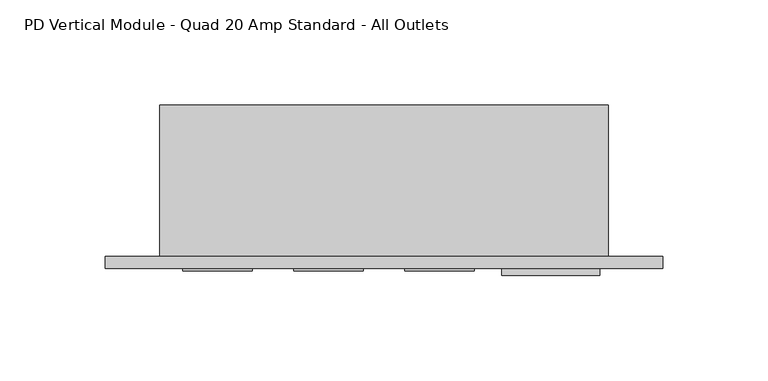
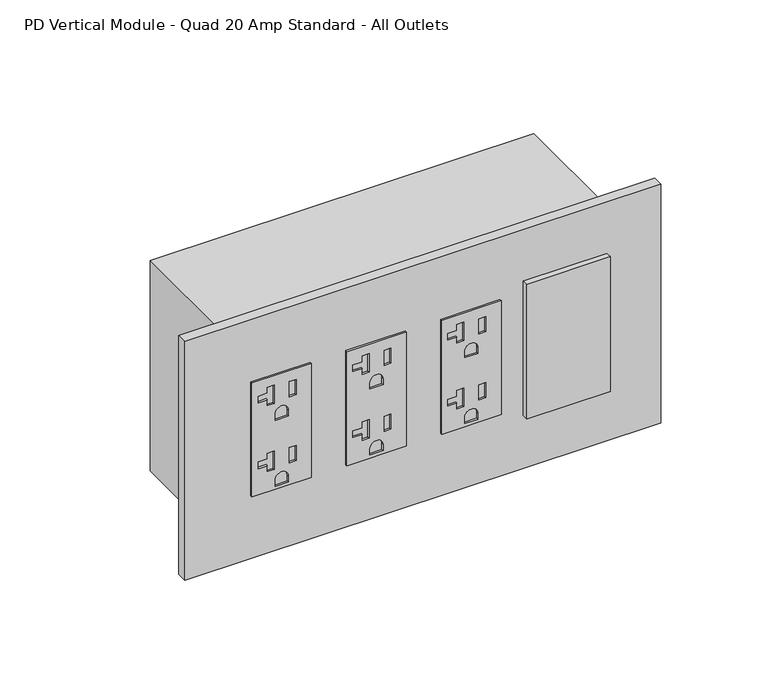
"""IFC4 building model written with IfcOpenShell, lengths in millimetres: proxy geometry, Electrical-Teknion-EPDMQ_Vertical_Power_Data_Quad-R2019 : PD Vertical Module - Quad 20 Amp Standard - All Outlets."""

import ifcopenshell
import ifcopenshell.guid

model = None  # the IFC model being written
_history = None  # IfcOwnerHistory: only IFC2X3 demands one
_inside = {}  # id of a spatial element -> (the spatial element, [elements in it])
_under = {}  # id of a project, library or spatial element -> (it, [spatial elements below it])
_declared = {}  # id of a project -> (the project, [libraries it declares])
_typed = {}  # id of a type object -> (the type object, [elements of that type])
_made_of = {}  # id of a material, layer set ... -> (it, [elements and type objects made of it])


def new_model(schema):
    """Start an empty IFC model of exactly this schema.

    Asked for "IFC4X3", IfcOpenShell would pick the latest addendum, in which some entities
    have other attributes; the version numbers below select the first issue.
    IFC2X3 requires an IfcOwnerHistory on every rooted entity: one is made here for all.
    """
    global model, _history
    if schema == "IFC4X3":
        model = ifcopenshell.file(schema_version=(4, 3, 0, 0))
    else:
        model = ifcopenshell.file(schema=schema)
    _inside.clear()
    _under.clear()
    _declared.clear()
    _typed.clear()
    _made_of.clear()
    _history = None
    if model.schema == "IFC2X3":
        org = make("IfcOrganization", Name="unknown")
        user = make(
            "IfcPersonAndOrganization",
            ThePerson=make("IfcPerson", FamilyName="unknown"),
            TheOrganization=org,
        )
        app = make(
            "IfcApplication",
            ApplicationDeveloper=org,
            Version="unknown",
            ApplicationFullName="unknown",
            ApplicationIdentifier="unknown",
        )
        _history = make(
            "IfcOwnerHistory",
            OwningUser=user,
            OwningApplication=app,
            ChangeAction="ADDED",
            CreationDate=0,
        )
    return model


def make(cls, **values):
    """One entity of the class cls with the attributes given. An attribute that is None is left unset."""
    return model.create_entity(
        cls, **{name: value for name, value in values.items() if value is not None}
    )


def rooted(cls, **values):
    """An entity with a GlobalId (a new one), such as an element, a storey or a relation."""
    return make(cls, GlobalId=ifcopenshell.guid.new(), OwnerHistory=_history, **values)


def si_unit(unit_type, name, prefix=None):
    """IfcSIUnit, for example si_unit("LENGTHUNIT", "METRE", prefix="MILLI")."""
    return make("IfcSIUnit", UnitType=unit_type, Prefix=prefix, Name=name)


def assignment(units):
    """IfcUnitAssignment: the units of a project."""
    return None if units is None else make("IfcUnitAssignment", Units=units)


def point(xyz):
    """IfcCartesianPoint."""
    return None if xyz is None else make("IfcCartesianPoint", Coordinates=xyz)


def direction(xyz):
    """IfcDirection."""
    return None if xyz is None else make("IfcDirection", DirectionRatios=xyz)


def frame(location, z_axis=None, x_axis=None):
    """IfcAxis2Placement3D, a coordinate frame: its origin and axes. An axis left out is left unset."""
    return make(
        "IfcAxis2Placement3D",
        Location=point(location),
        Axis=direction(z_axis),
        RefDirection=direction(x_axis),
    )


def frame_2d(location, x_axis=None):
    """IfcAxis2Placement2D, a coordinate frame in the plane: its origin and x axis."""
    return make(
        "IfcAxis2Placement2D", Location=point(location), RefDirection=direction(x_axis)
    )


def origin():
    """The frame at (0, 0, 0) with its axes left unset."""
    return frame((0.0, 0.0, 0.0))


def place(relative_to, where):
    """IfcLocalPlacement: puts the frame where relative to a parent placement (None: the world)."""
    return make(
        "IfcLocalPlacement", PlacementRelTo=relative_to, RelativePlacement=where
    )


def context(
    kind, dimensions, precision=None, world=None, true_north=None, identifier=None
):
    """IfcGeometricRepresentationContext, for example the 3D "Model" context."""
    return make(
        "IfcGeometricRepresentationContext",
        ContextIdentifier=identifier,
        ContextType=kind,
        CoordinateSpaceDimension=dimensions,
        Precision=precision,
        WorldCoordinateSystem=world,
        TrueNorth=true_north,
    )


def project(units=None, contexts=None):
    """IfcProject with its units and contexts."""
    return rooted(
        "IfcProject",
        Name="project",
        RepresentationContexts=contexts,
        UnitsInContext=assignment(units),
    )


def spatial(cls, under=None, at=None, **own):
    """A site, building, storey or space (cls), placed at a placement, below another one or the project."""
    s = rooted(cls, ObjectPlacement=at, **own)
    if under is not None:
        _under.setdefault(under.id(), (under, []))[1].append(s)
    return s


def polyline(points):
    """IfcPolyline through the points."""
    return make("IfcPolyline", Points=[point(p) for p in points])


def circle_curve(where, radius):
    """IfcCircle in the frame where."""
    return make("IfcCircle", Position=where, Radius=radius)


def trimmed(basis, trim1, trim2, sense, master):
    """IfcTrimmedCurve: the piece of a basis curve between two trims."""
    return make(
        "IfcTrimmedCurve",
        BasisCurve=basis,
        Trim1=trim1,
        Trim2=trim2,
        SenseAgreement=sense,
        MasterRepresentation=master,
    )


def segment(curve, same_sense, transition):
    """IfcCompositeCurveSegment."""
    return make(
        "IfcCompositeCurveSegment",
        Transition=transition,
        SameSense=same_sense,
        ParentCurve=curve,
    )


def composite_curve(segments, self_intersect=None):
    """IfcCompositeCurve: segments joined end to end."""
    return make("IfcCompositeCurve", Segments=segments, SelfIntersect=self_intersect)


def outline(outer, holes=None, kind="AREA"):
    """IfcArbitraryClosedProfileDef: a profile drawn as a closed curve; with holes, ...WithVoids."""
    if holes is None:
        return make("IfcArbitraryClosedProfileDef", ProfileType=kind, OuterCurve=outer)
    return make(
        "IfcArbitraryProfileDefWithVoids",
        ProfileType=kind,
        OuterCurve=outer,
        InnerCurves=holes,
    )


def extrude(swept, where, along, depth):
    """IfcExtrudedAreaSolid: the profile swept, set in the frame where, extruded along a direction by depth."""
    return make(
        "IfcExtrudedAreaSolid",
        SweptArea=swept,
        Position=where,
        ExtrudedDirection=direction(along),
        Depth=depth,
    )


def shape(context_of_items, identifier, shape_type, items):
    """IfcShapeRepresentation: the items that make up one representation, for example the "Body"."""
    return make(
        "IfcShapeRepresentation",
        ContextOfItems=context_of_items,
        RepresentationIdentifier=identifier,
        RepresentationType=shape_type,
        Items=items,
    )


def source(mapping_origin, context_of_items, identifier, shape_type, items):
    """IfcRepresentationMap: a shape defined once, which mapped items show again and again."""
    return make(
        "IfcRepresentationMap",
        MappingOrigin=mapping_origin,
        MappedRepresentation=shape(context_of_items, identifier, shape_type, items),
    )


def transform(
    local_origin,
    x_axis=None,
    y_axis=None,
    z_axis=None,
    scale=None,
    scale2=None,
    scale3=None,
    uniform=True,
):
    """IfcCartesianTransformationOperator3D, or its non-uniform kind. x_axis, y_axis, z_axis: its Axis1, 2, 3."""
    if uniform:
        return make(
            "IfcCartesianTransformationOperator3D",
            Axis1=direction(x_axis),
            Axis2=direction(y_axis),
            LocalOrigin=point(local_origin),
            Scale=scale,
            Axis3=direction(z_axis),
        )
    return make(
        "IfcCartesianTransformationOperator3DnonUniform",
        Axis1=direction(x_axis),
        Axis2=direction(y_axis),
        LocalOrigin=point(local_origin),
        Scale=scale,
        Axis3=direction(z_axis),
        Scale2=scale2,
        Scale3=scale3,
    )


def mapped(mapping_source, mapping_target):
    """IfcMappedItem: shows the shape of a source again, moved by a transform."""
    return make(
        "IfcMappedItem", MappingSource=mapping_source, MappingTarget=mapping_target
    )


def made_of(thing, what):
    """Note that an element or type object is made of a material, layer set ...; save() writes the relation."""
    if what is not None:
        _made_of.setdefault(what.id(), (what, []))[1].append(thing)
    return thing


def element(
    cls,
    number,
    at=None,
    inside=None,
    cuts=None,
    type_object=None,
    material=None,
    context=None,
    identifier="Body",
    shape_type=None,
    held_by="IfcProductDefinitionShape",
    body=None,
    shapes=None,
    **own,
):
    """One element of the class cls, such as IfcWall. Its Tag is "e" and its number.

    at: its placement. inside: the storey or other place that contains it. cuts: it is an
    opening in that element (IfcRelVoidsElement). A single representation is given by context,
    identifier, shape_type and body (its items); several are given by shapes. held_by: the class
    of the entity that holds the representations. save() writes the other relations.
    """
    e = rooted(cls, Tag="e%d" % number, ObjectPlacement=at, **own)
    if body is not None:
        shapes = [shape(context, identifier, shape_type, body)]
    if shapes is not None:
        e.Representation = make(held_by, Representations=shapes)
    if inside is not None:
        _inside.setdefault(inside.id(), (inside, []))[1].append(e)
    if cuts is not None:
        rooted(
            "IfcRelVoidsElement", RelatingBuildingElement=cuts, RelatedOpeningElement=e
        )
    if type_object is not None:
        _typed.setdefault(type_object.id(), (type_object, []))[1].append(e)
    return made_of(e, material)


def aggregate(whole, parts):
    """IfcRelAggregates: a whole, such as a stair, and the parts it consists of."""
    return rooted("IfcRelAggregates", RelatingObject=whole, RelatedObjects=parts)


def save(model, path):
    """Write the relations noted so far, then the file.

    IfcRelAggregates (storeys below a building ...), IfcRelContainedInSpatialStructure (elements
    in a storey), IfcRelDefinesByType, IfcRelAssociatesMaterial and IfcRelDeclares: one each for
    every whole, place, type object, material and project.
    """
    for whole, parts in _under.values():
        aggregate(whole, parts)
    for where, things in _inside.values():
        rooted(
            "IfcRelContainedInSpatialStructure",
            RelatedElements=things,
            RelatingStructure=where,
        )
    for kind, things in _typed.values():
        rooted("IfcRelDefinesByType", RelatedObjects=things, RelatingType=kind)
    for what, things in _made_of.values():
        rooted("IfcRelAssociatesMaterial", RelatedObjects=things, RelatingMaterial=what)
    for by, libraries in _declared.values():
        rooted("IfcRelDeclares", RelatingContext=by, RelatedDefinitions=libraries)
    model.write(path)


def pd_vertical_module_quad_20_amp_standard_all_outlets_6899d5ff(model_context):
    return source(origin(), model_context, "Body", "SweptSolid", [
        extrude(outline(polyline([(414.4772, 149.4282), (414.4772, 116.4336), (347.5228, 116.4336), (347.5228, 149.4282), (414.4772, 149.4282)]), holes=[polyline([(409.0924, 128.778), (398.272, 128.778), (398.272, 124.9426), (401.7518, 124.9426), (401.7518, 119.8372), (405.6126, 119.8372), (405.6126, 124.9426), (409.0924, 124.9426), (409.0924, 128.778)]), polyline([(408.1145, 140.9446), (399.2499, 140.9446), (399.2499, 137.1092), (408.1145, 137.1092), (408.1145, 140.9446)]), composite_curve([segment(polyline([(388.0866, 136.5631), (388.0866, 129.2987), (391.7188, 129.2987)]), True, "CONTINUOUS"), segment(trimmed(circle_curve(frame_2d((391.7188, 132.9309)), 3.6322), [point((391.7188, 129.2987))], [point((391.7188, 136.5631))], True, "CARTESIAN"), True, "CONTINUOUS"), segment(polyline([(391.7188, 136.5631), (388.0866, 136.5631)]), True, "CONTINUOUS")], self_intersect=False), polyline([(370.3574, 128.778), (359.537, 128.778), (359.537, 124.9426), (363.0168, 124.9426), (363.0168, 119.8372), (366.8776, 119.8372), (366.8776, 124.9426), (370.3574, 124.9426), (370.3574, 128.778)]), polyline([(369.3795, 140.9446), (360.5149, 140.9446), (360.5149, 137.1092), (369.3795, 137.1092), (369.3795, 140.9446)]), composite_curve([segment(polyline([(349.3516, 136.5631), (349.3516, 129.2987), (352.9838, 129.2987)]), True, "CONTINUOUS"), segment(trimmed(circle_curve(frame_2d((352.9838, 132.9309)), 3.6322), [point((352.9838, 129.2987))], [point((352.9838, 136.5631))], True, "CARTESIAN"), True, "CONTINUOUS"), segment(polyline([(352.9838, 136.5631), (349.3516, 136.5631)]), True, "CONTINUOUS")], self_intersect=False)]), frame((0.0, -6.9294746, 0.0), z_axis=(0.0, 1.0, 0.0), x_axis=(0.0, 0.0, 1.0)), (0.0, 0.0, 1.0), 1.0366746),
        extrude(outline(polyline([(414.4772, 96.7613), (414.4772, 63.7667), (347.5228, 63.7667), (347.5228, 96.7613), (414.4772, 96.7613)]), holes=[polyline([(409.0924, 76.1111), (398.272, 76.1111), (398.272, 72.2757), (401.7518, 72.2757), (401.7518, 67.1703), (405.6126, 67.1703), (405.6126, 72.2757), (409.0924, 72.2757), (409.0924, 76.1111)]), polyline([(408.1145, 88.2777), (399.2499, 88.2777), (399.2499, 84.4423), (408.1145, 84.4423), (408.1145, 88.2777)]), composite_curve([segment(polyline([(388.0866, 83.8962), (388.0866, 76.6318), (391.7188, 76.6318)]), True, "CONTINUOUS"), segment(trimmed(circle_curve(frame_2d((391.7188, 80.264)), 3.6322), [point((391.7188, 76.6318))], [point((391.7188, 83.8962))], True, "CARTESIAN"), True, "CONTINUOUS"), segment(polyline([(391.7188, 83.8962), (388.0866, 83.8962)]), True, "CONTINUOUS")], self_intersect=False), polyline([(370.3574, 76.1111), (359.537, 76.1111), (359.537, 72.2757), (363.0168, 72.2757), (363.0168, 67.1703), (366.8776, 67.1703), (366.8776, 72.2757), (370.3574, 72.2757), (370.3574, 76.1111)]), polyline([(369.3795, 88.2777), (360.5149, 88.2777), (360.5149, 84.4423), (369.3795, 84.4423), (369.3795, 88.2777)]), composite_curve([segment(polyline([(349.3516, 83.8962), (349.3516, 76.6318), (352.9838, 76.6318)]), True, "CONTINUOUS"), segment(trimmed(circle_curve(frame_2d((352.9838, 80.264)), 3.6322), [point((352.9838, 76.6318))], [point((352.9838, 83.8962))], True, "CARTESIAN"), True, "CONTINUOUS"), segment(polyline([(352.9838, 83.8962), (349.3516, 83.8962)]), True, "CONTINUOUS")], self_intersect=False)]), frame((0.0, -6.9294746, 0.0), z_axis=(0.0, 1.0, 0.0), x_axis=(0.0, 0.0, 1.0)), (0.0, 0.0, 1.0), 1.0366746),
        extrude(outline(polyline([(414.4772, 44.0944), (414.4772, 11.0998), (347.5228, 11.0998), (347.5228, 44.0944), (414.4772, 44.0944)]), holes=[polyline([(409.0924, 23.4442), (398.272, 23.4442), (398.272, 19.6088), (401.7518, 19.6088), (401.7518, 14.5034), (405.6126, 14.5034), (405.6126, 19.6088), (409.0924, 19.6088), (409.0924, 23.4442)]), polyline([(408.1145, 35.6108), (399.2499, 35.6108), (399.2499, 31.7754), (408.1145, 31.7754), (408.1145, 35.6108)]), composite_curve([segment(polyline([(388.0866, 31.2293), (388.0866, 23.9649), (391.7188, 23.9649)]), True, "CONTINUOUS"), segment(trimmed(circle_curve(frame_2d((391.7188, 27.5971)), 3.6322), [point((391.7188, 23.9649))], [point((391.7188, 31.2293))], True, "CARTESIAN"), True, "CONTINUOUS"), segment(polyline([(391.7188, 31.2293), (388.0866, 31.2293)]), True, "CONTINUOUS")], self_intersect=False), polyline([(370.3574, 23.4442), (359.537, 23.4442), (359.537, 19.6088), (363.0168, 19.6088), (363.0168, 14.5034), (366.8776, 14.5034), (366.8776, 19.6088), (370.3574, 19.6088), (370.3574, 23.4442)]), polyline([(369.3795, 35.6108), (360.5149, 35.6108), (360.5149, 31.7754), (369.3795, 31.7754), (369.3795, 35.6108)]), composite_curve([segment(polyline([(349.3516, 31.2293), (349.3516, 23.9649), (352.9838, 23.9649)]), True, "CONTINUOUS"), segment(trimmed(circle_curve(frame_2d((352.9838, 27.5971)), 3.6322), [point((352.9838, 23.9649))], [point((352.9838, 31.2293))], True, "CARTESIAN"), True, "CONTINUOUS"), segment(polyline([(352.9838, 31.2293), (349.3516, 31.2293)]), True, "CONTINUOUS")], self_intersect=False)]), frame((0.0, -6.9294746, 0.0), z_axis=(0.0, 1.0, 0.0), x_axis=(0.0, 0.0, 1.0)), (0.0, 0.0, 1.0), 1.0366746),
        extrude(outline(polyline([(162.3314, -5.8928), (208.8642, -5.8928), (208.8642, -9.0678), (162.3314, -9.0678), (162.3314, -5.8928)])), frame((0.0, 0.0, 341.7922742), z_axis=(0.0, 0.0, 1.0), x_axis=(1.0, 0.0, 0.0)), (0.0, 0.0, 1.0), 79.0448),
        extrude(outline(polyline([(-25.6794, 0.0), (238.7092, 0.0), (238.7092, -5.8928), (-25.6794, -5.8928), (-25.6794, 0.0)])), frame((0.0, 0.0, 310.8198), z_axis=(0.0, 0.0, 1.0), x_axis=(1.0, 0.0, 0.0)), (0.0, 0.0, 1.0), 140.3604),
        extrude(outline(polyline([(213.0298, 0.0), (0.0, 0.0), (0.0, 71.7296), (213.0298, 71.7296), (213.0298, 0.0)])), frame((0.0, 0.0, 319.2526), z_axis=(0.0, 0.0, 1.0), x_axis=(1.0, 0.0, 0.0)), (0.0, 0.0, 1.0), 123.4948),
    ])


if __name__ == "__main__":
    model = new_model("IFC4")
    model_context = context("Model", 3, world=origin())
    ifc_project = project(units=[si_unit("LENGTHUNIT", "METRE", prefix="MILLI")], contexts=[model_context])
    site = spatial("IfcSite", under=ifc_project)
    building = spatial("IfcBuilding", under=site)
    placement = place(None, origin())
    pd_vertical_module_quad_20_amp_standard_all_outlets_shape = pd_vertical_module_quad_20_amp_standard_all_outlets_6899d5ff(model_context)
    element("IfcBuildingElementProxy", 1, Name="Electrical-Teknion-EPDMQ_Vertical_Power_Data_Quad-R2019 : PD Vertical Module - Quad 20 Amp Standard - All Outlets", ObjectType="Electrical-Teknion-EPDMQ_Vertical_Power_Data_Quad-R2019 : PD Vertical Module - Quad 20 Amp Standard - All Outlets", at=placement, inside=building, context=model_context, shape_type="MappedRepresentation", body=[
        mapped(pd_vertical_module_quad_20_amp_standard_all_outlets_shape, transform((0.0, 0.0, 0.0), x_axis=(1.0, 0.0, 0.0), y_axis=(0.0, 1.0, 0.0), z_axis=(0.0, 0.0, 1.0))),
    ])
    save(model, "model.ifc")
